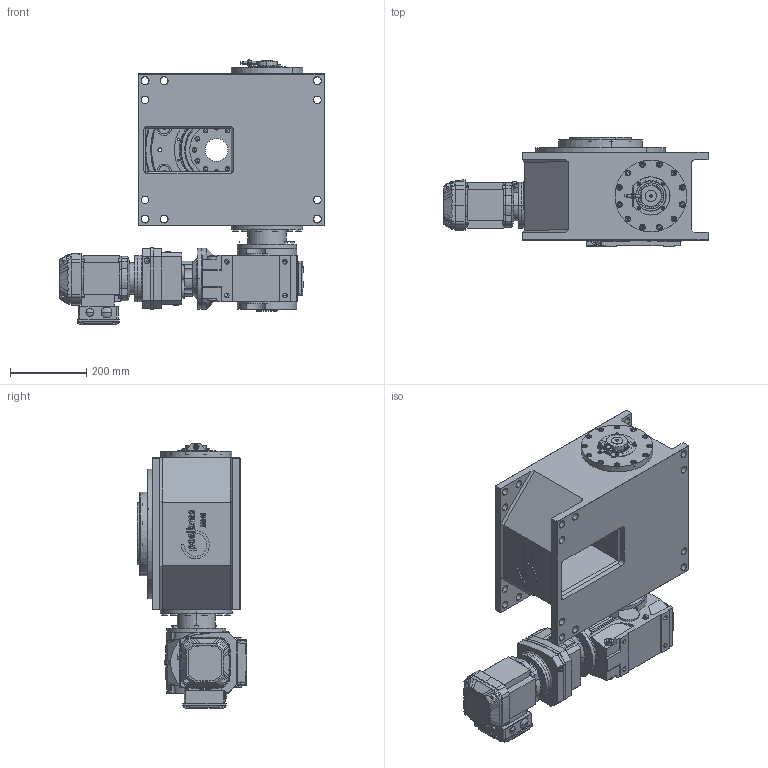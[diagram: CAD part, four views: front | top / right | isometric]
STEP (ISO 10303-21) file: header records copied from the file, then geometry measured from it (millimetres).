
FILE_DESCRIPTION (( 'STEP AP214' ), '1' );
FILE_NAME ('M340_SEW_KA57R37DRN71MS4_D1_08.STEP', '2020-06-17T12:22:41', ( '' ), ( '' ), 'SwSTEP 2.0', 'SolidWorks 2020', '' );
FILE_SCHEMA (( 'AUTOMOTIVE_DESIGN' ));
Length unit declared in the file: millimetre
Products named in the file (1): M340_SEW_KA57R37DRN71MS4_D1_08
Bounding box: 692.2 x 286 x 691.47 mm (x, y, z)
Surface area: 1808277.5 mm2 (no closed solid volume)
Topology: 0 solids, 140 shells, 2073 faces, 6296 edges, 4228 vertices
Faces by surface type: plane 1050, cylinder 606, cone 229, torus 96, bspline 88, sphere 4
Entity records: 102267 total; most frequent: CARTESIAN_POINT 24010, DIRECTION 11550, ORIENTED_EDGE 10567, EDGE_CURVE 6250, VERTEX_POINT 4228, AXIS2_PLACEMENT_3D 4004, LINE 3542, VECTOR 3542
